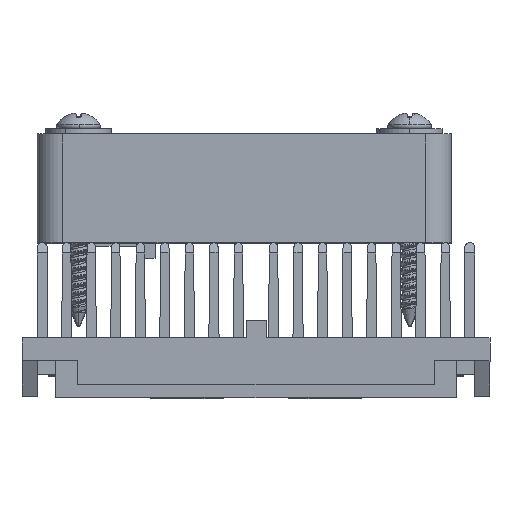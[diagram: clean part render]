
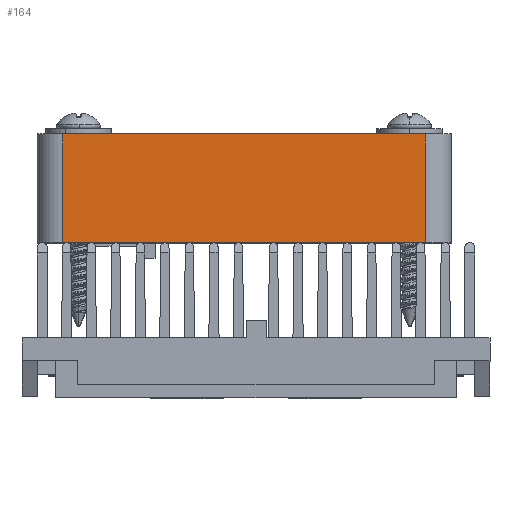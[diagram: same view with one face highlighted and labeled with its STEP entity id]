
A CAD part, top view. The second image highlights one B-rep face of the part: STEP entity #164.
In plain terms, the highlighted planar face has unit normal (0, 0, 1).
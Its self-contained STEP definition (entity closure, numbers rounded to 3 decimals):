
#164 = ADVANCED_FACE ( 'NONE', ( #23917 ), #43307, .F. ) ;
#1036 = DIRECTION ( 'NONE',  ( -1., 0., 0. ) ) ;
#1037 = LINE ( 'NONE', #49337, #33852 ) ;
#3252 = ORIENTED_EDGE ( 'NONE', *, *, #28890, .T. ) ;
#4467 = VERTEX_POINT ( 'NONE', #26810 ) ;
#5504 = DIRECTION ( 'NONE',  ( 0., 0., -1. ) ) ;
#5545 = CARTESIAN_POINT ( 'NONE',  ( 16.35, 12.7, 20. ) ) ;
#9600 = CARTESIAN_POINT ( 'NONE',  ( 16.35, 23.2, 20. ) ) ;
#10236 = DIRECTION ( 'NONE',  ( 1., 0., 0. ) ) ;
#10631 = DIRECTION ( 'NONE',  ( 0., -1., 0. ) ) ;
#10994 = DIRECTION ( 'NONE',  ( 1., 0., 0. ) ) ;
#16523 = VERTEX_POINT ( 'NONE', #59180 ) ;
#18255 = EDGE_LOOP ( 'NONE', ( #3252, #24103, #45527, #19900 ) ) ;
#19900 = ORIENTED_EDGE ( 'NONE', *, *, #58372, .T. ) ;
#20457 = LINE ( 'NONE', #5545, #49874 ) ;
#23917 = FACE_OUTER_BOUND ( 'NONE', #18255, .T. ) ;
#24103 = ORIENTED_EDGE ( 'NONE', *, *, #27128, .F. ) ;
#24554 = VECTOR ( 'NONE', #62785, 1000. ) ;
#25784 = CARTESIAN_POINT ( 'NONE',  ( 16.35, 12.7, 20. ) ) ;
#26810 = CARTESIAN_POINT ( 'NONE',  ( -18.65, 12.7, 20. ) ) ;
#27128 = EDGE_CURVE ( 'NONE', #35001, #57273, #33208, .T. ) ;
#28890 = EDGE_CURVE ( 'NONE', #4467, #57273, #20457, .T. ) ;
#33208 = LINE ( 'NONE', #42707, #24554 ) ;
#33814 = CARTESIAN_POINT ( 'NONE',  ( 16.35, 23.2, 20. ) ) ;
#33852 = VECTOR ( 'NONE', #10631, 1000. ) ;
#35001 = VERTEX_POINT ( 'NONE', #33814 ) ;
#35018 = CARTESIAN_POINT ( 'NONE',  ( 16.35, 23.2, 20. ) ) ;
#41749 = AXIS2_PLACEMENT_3D ( 'NONE', #35018, #5504, #1036 ) ;
#42707 = CARTESIAN_POINT ( 'NONE',  ( 16.35, 23.2, 20. ) ) ;
#43307 = PLANE ( 'NONE',  #41749 ) ;
#44112 = VECTOR ( 'NONE', #10236, 1000. ) ;
#45527 = ORIENTED_EDGE ( 'NONE', *, *, #52617, .F. ) ;
#49337 = CARTESIAN_POINT ( 'NONE',  ( -18.65, 23.2, 20. ) ) ;
#49874 = VECTOR ( 'NONE', #10994, 1000. ) ;
#52617 = EDGE_CURVE ( 'NONE', #16523, #35001, #53390, .T. ) ;
#53390 = LINE ( 'NONE', #9600, #44112 ) ;
#57273 = VERTEX_POINT ( 'NONE', #25784 ) ;
#58372 = EDGE_CURVE ( 'NONE', #16523, #4467, #1037, .T. ) ;
#59180 = CARTESIAN_POINT ( 'NONE',  ( -18.65, 23.2, 20. ) ) ;
#62785 = DIRECTION ( 'NONE',  ( 0., -1., 0. ) ) ;
